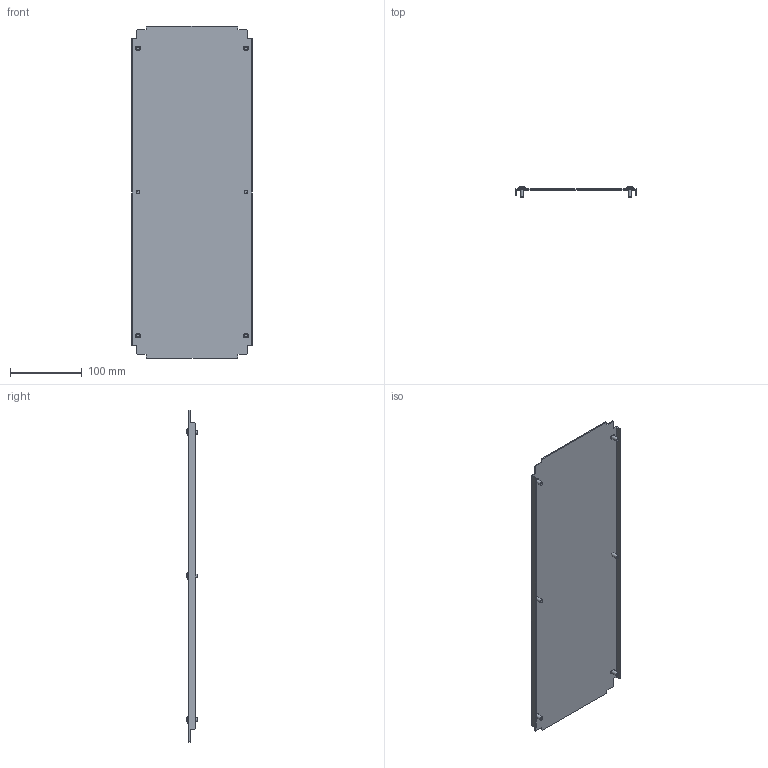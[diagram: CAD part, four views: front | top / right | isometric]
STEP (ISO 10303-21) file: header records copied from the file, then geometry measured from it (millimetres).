
FILE_DESCRIPTION (( 'STEP AP203' ), '1' );
FILE_NAME ('R5N1BP36.STEP', '2025-02-21T13:47:08', ( '' ), ( '' ), 'SwSTEP 2.0', 'SolidWorks 2022', '' );
FILE_SCHEMA (( 'CONFIG_CONTROL_DESIGN' ));
Length unit declared in the file: millimetre
Products named in the file (3): R5N1BP36; M5x12 DIN 7500 C Torx Zinc_stright; RB.1923.00.00.0_-01
Assembly tree (7 placements, depth 2):
  R5N1BP36
    RB.1923.00.00.0_-01
    M5x12 DIN 7500 C Torx Zinc_stright  x6
Bounding box: 168 x 15.56 x 462 mm (x, y, z)
Volume: 127156.8 mm3; surface area: 170761.9 mm2
Topology: 7 solids, 7 shells, 158 faces, 360 edges, 222 vertices
Faces by surface type: plane 102, cylinder 20, torus 12, cone 12, sphere 6, bspline 6
Full cylindrical faces by diameter (mm): 5 x6, 9.5 x6
Entity records: 3017 total; most frequent: CARTESIAN_POINT 626, ORIENTED_EDGE 400, DIRECTION 396, EDGE_CURVE 200, LINE 164, VECTOR 164, VERTEX_POINT 134, AXIS2_PLACEMENT_3D 116
